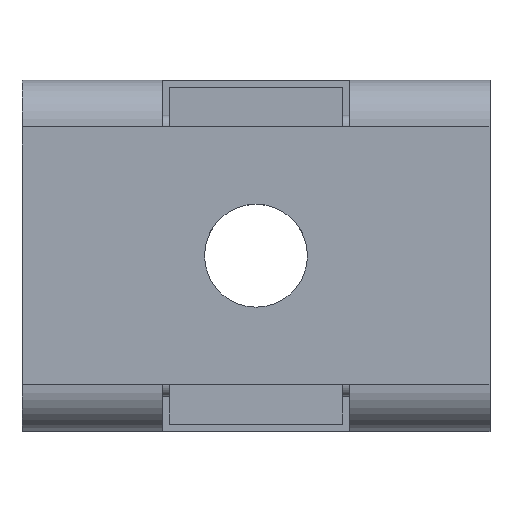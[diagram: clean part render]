
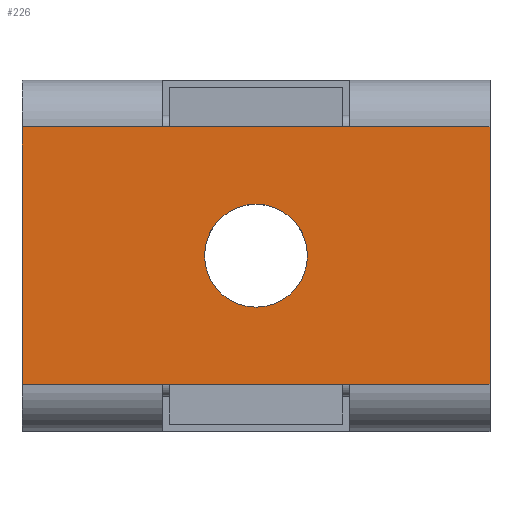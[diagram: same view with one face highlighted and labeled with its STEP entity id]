
A CAD part, top view. The second image highlights one B-rep face of the part: STEP entity #226.
In plain terms, the highlighted planar face has unit normal (0, 0, 1).
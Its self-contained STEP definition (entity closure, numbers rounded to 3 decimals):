
#141=FACE_BOUND('',#433,.T.);
#142=FACE_BOUND('',#434,.T.);
#186=CIRCLE('',#1756,2.2);
#226=ADVANCED_FACE('',(#141,#142),#308,.F.);
#308=PLANE('',#1757);
#433=EDGE_LOOP('',(#620));
#434=EDGE_LOOP('',(#621,#622,#623,#624,#625,#626,#627,#628));
#620=ORIENTED_EDGE('',*,*,#1241,.F.);
#621=ORIENTED_EDGE('',*,*,#1242,.T.);
#622=ORIENTED_EDGE('',*,*,#1230,.T.);
#623=ORIENTED_EDGE('',*,*,#1243,.F.);
#624=ORIENTED_EDGE('',*,*,#1244,.F.);
#625=ORIENTED_EDGE('',*,*,#1245,.F.);
#626=ORIENTED_EDGE('',*,*,#1246,.F.);
#627=ORIENTED_EDGE('',*,*,#1247,.T.);
#628=ORIENTED_EDGE('',*,*,#1248,.F.);
#1069=VERTEX_POINT('',#2513);
#1070=VERTEX_POINT('',#2515);
#1078=VERTEX_POINT('',#2536);
#1079=VERTEX_POINT('',#2538);
#1080=VERTEX_POINT('',#2540);
#1081=VERTEX_POINT('',#2542);
#1082=VERTEX_POINT('',#2544);
#1083=VERTEX_POINT('',#2546);
#1084=VERTEX_POINT('',#2548);
#1230=EDGE_CURVE('',#1070,#1069,#1433,.T.);
#1241=EDGE_CURVE('',#1078,#1078,#186,.T.);
#1242=EDGE_CURVE('',#1079,#1070,#1442,.T.);
#1243=EDGE_CURVE('',#1080,#1069,#1443,.T.);
#1244=EDGE_CURVE('',#1081,#1080,#1444,.T.);
#1245=EDGE_CURVE('',#1082,#1081,#1445,.T.);
#1246=EDGE_CURVE('',#1083,#1082,#1446,.T.);
#1247=EDGE_CURVE('',#1083,#1084,#1447,.T.);
#1248=EDGE_CURVE('',#1079,#1084,#1448,.T.);
#1433=LINE('',#2514,#1601);
#1442=LINE('',#2537,#1610);
#1443=LINE('',#2539,#1611);
#1444=LINE('',#2541,#1612);
#1445=LINE('',#2543,#1613);
#1446=LINE('',#2545,#1614);
#1447=LINE('',#2547,#1615);
#1448=LINE('',#2549,#1616);
#1601=VECTOR('',#1998,1.);
#1610=VECTOR('',#2017,1.);
#1611=VECTOR('',#2018,1.);
#1612=VECTOR('',#2019,1.);
#1613=VECTOR('',#2020,1.);
#1614=VECTOR('',#2021,1.);
#1615=VECTOR('',#2022,1.);
#1616=VECTOR('',#2023,1.);
#1756=AXIS2_PLACEMENT_3D('',#2535,#2015,#2016);
#1757=AXIS2_PLACEMENT_3D('',#2550,#2024,#2025);
#1998=DIRECTION('',(0.,-1.,0.));
#2015=DIRECTION('',(0.,0.,1.));
#2016=DIRECTION('',(0.,1.,0.));
#2017=DIRECTION('',(-1.,0.,0.));
#2018=DIRECTION('',(-1.,0.,0.));
#2019=DIRECTION('',(-1.,0.,0.));
#2020=DIRECTION('',(-1.,0.,0.));
#2021=DIRECTION('',(0.,-1.,0.));
#2022=DIRECTION('',(-1.,0.,0.));
#2023=DIRECTION('',(1.,0.,0.));
#2024=DIRECTION('',(0.,0.,-1.));
#2025=DIRECTION('',(0.,-1.,0.));
#2513=CARTESIAN_POINT('',(-2.75,1.75,10.));
#2514=CARTESIAN_POINT('',(-2.75,6.25,10.));
#2515=CARTESIAN_POINT('',(-2.75,12.75,10.));
#2535=CARTESIAN_POINT('',(7.25,7.25,10.));
#2536=CARTESIAN_POINT('',(7.25,9.45,10.));
#2537=CARTESIAN_POINT('',(5.,12.75,10.));
#2538=CARTESIAN_POINT('',(3.25,12.75,10.));
#2539=CARTESIAN_POINT('',(14.5,1.75,10.));
#2540=CARTESIAN_POINT('',(3.25,1.75,10.));
#2541=CARTESIAN_POINT('',(9.5,1.75,10.));
#2542=CARTESIAN_POINT('',(11.25,1.75,10.));
#2543=CARTESIAN_POINT('',(9.5,1.75,10.));
#2544=CARTESIAN_POINT('',(17.25,1.75,10.));
#2545=CARTESIAN_POINT('',(17.25,1.,10.));
#2546=CARTESIAN_POINT('',(17.25,12.75,10.));
#2547=CARTESIAN_POINT('',(14.5,12.75,10.));
#2548=CARTESIAN_POINT('',(11.25,12.75,10.));
#2549=CARTESIAN_POINT('',(5.,12.75,10.));
#2550=CARTESIAN_POINT('',(14.5,6.25,10.));
